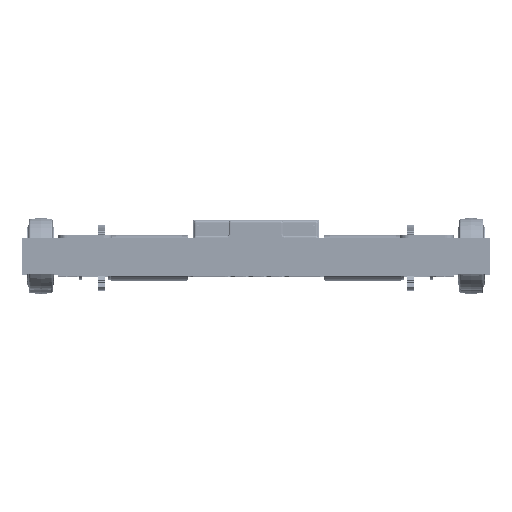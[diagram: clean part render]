
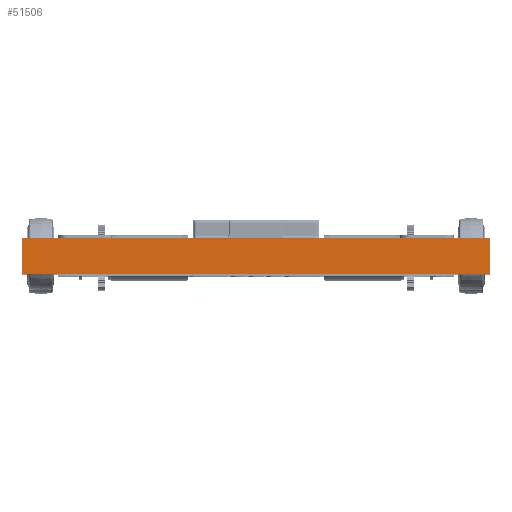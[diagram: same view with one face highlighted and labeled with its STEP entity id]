
A CAD part, top view. The second image highlights one B-rep face of the part: STEP entity #51506.
In plain terms, the highlighted planar face has unit normal (0, 0, 1).
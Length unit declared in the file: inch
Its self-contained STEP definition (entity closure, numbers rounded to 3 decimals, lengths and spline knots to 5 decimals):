
#3802 = PLANE ( 'NONE',  #26231 ) ;
#6886 = ORIENTED_EDGE ( 'NONE', *, *, #191665, .T. ) ;
#8555 = ORIENTED_EDGE ( 'NONE', *, *, #13184, .T. ) ;
#10077 = ORIENTED_EDGE ( 'NONE', *, *, #27757, .T. ) ;
#11226 = CARTESIAN_POINT ( 'NONE',  ( 13., -1., 1. ) ) ;
#13184 = EDGE_CURVE ( 'NONE', #163098, #195684, #110576, .T. ) ;
#15330 = ORIENTED_EDGE ( 'NONE', *, *, #141385, .T. ) ;
#20687 = FACE_OUTER_BOUND ( 'NONE', #164251, .T. ) ;
#23538 = CARTESIAN_POINT ( 'NONE',  ( -13., 1., 1. ) ) ;
#25827 = CARTESIAN_POINT ( 'NONE',  ( -13., 1., 1. ) ) ;
#26231 = AXIS2_PLACEMENT_3D ( 'NONE', #179240, #163904, #68178 ) ;
#27757 = EDGE_CURVE ( 'NONE', #195684, #114026, #139304, .T. ) ;
#28743 = DIRECTION ( 'NONE',  ( -1., 0., 0. ) ) ;
#29130 = CARTESIAN_POINT ( 'NONE',  ( 13., -1., 1. ) ) ;
#39113 = CARTESIAN_POINT ( 'NONE',  ( -13., -1., 1. ) ) ;
#51000 = CARTESIAN_POINT ( 'NONE',  ( -13., -1., 1. ) ) ;
#51506 = ADVANCED_FACE ( 'NONE', ( #20687 ), #3802, .F. ) ;
#51622 = DIRECTION ( 'NONE',  ( 0., -1., 0. ) ) ;
#67680 = DIRECTION ( 'NONE',  ( 1., 0., 0. ) ) ;
#68178 = DIRECTION ( 'NONE',  ( -1., 0., 0. ) ) ;
#76841 = CARTESIAN_POINT ( 'NONE',  ( 13., 1., 1. ) ) ;
#87816 = VECTOR ( 'NONE', #67680, 39.37008 ) ;
#91676 = DIRECTION ( 'NONE',  ( 0., 1., 0. ) ) ;
#91790 = VECTOR ( 'NONE', #51622, 39.37008 ) ;
#96103 = VECTOR ( 'NONE', #91676, 39.37008 ) ;
#110576 = LINE ( 'NONE', #23538, #153021 ) ;
#114026 = VERTEX_POINT ( 'NONE', #39113 ) ;
#135390 = LINE ( 'NONE', #195426, #87816 ) ;
#138577 = LINE ( 'NONE', #11226, #96103 ) ;
#139304 = LINE ( 'NONE', #51000, #91790 ) ;
#141385 = EDGE_CURVE ( 'NONE', #114026, #165889, #135390, .T. ) ;
#153021 = VECTOR ( 'NONE', #28743, 39.37008 ) ;
#163098 = VERTEX_POINT ( 'NONE', #76841 ) ;
#163904 = DIRECTION ( 'NONE',  ( 0., 0., -1. ) ) ;
#164251 = EDGE_LOOP ( 'NONE', ( #6886, #8555, #10077, #15330 ) ) ;
#165889 = VERTEX_POINT ( 'NONE', #29130 ) ;
#179240 = CARTESIAN_POINT ( 'NONE',  ( 0., 0., 1. ) ) ;
#191665 = EDGE_CURVE ( 'NONE', #165889, #163098, #138577, .T. ) ;
#195426 = CARTESIAN_POINT ( 'NONE',  ( -13., -1., 1. ) ) ;
#195684 = VERTEX_POINT ( 'NONE', #25827 ) ;
